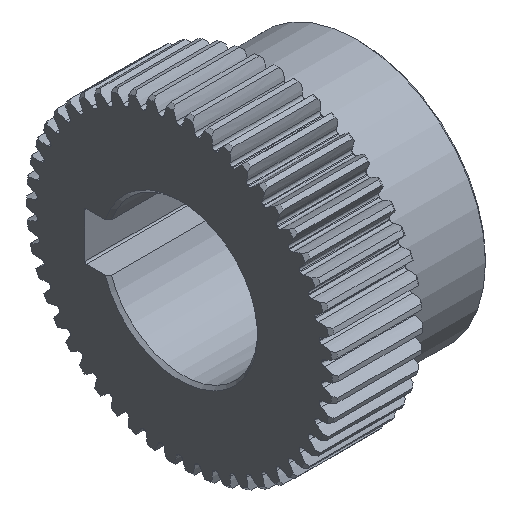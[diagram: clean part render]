
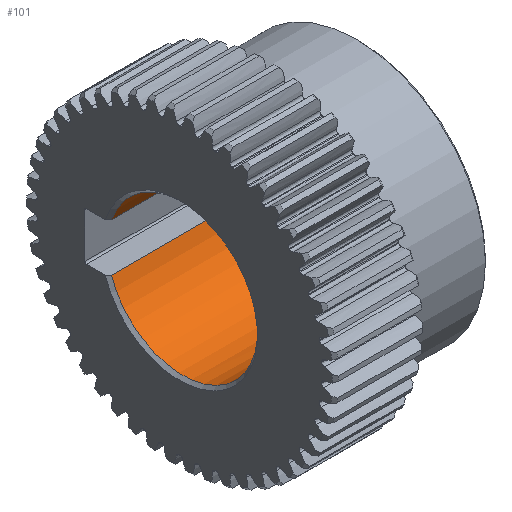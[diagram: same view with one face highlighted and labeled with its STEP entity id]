
A CAD part, isometric view. The second image highlights one B-rep face of the part: STEP entity #101.
In plain terms, the highlighted cylindrical face has radius 12.5 mm (diameter 25 mm), a partial arc.
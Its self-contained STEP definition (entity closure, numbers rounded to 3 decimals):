
#101=ADVANCED_FACE('',(#3845,#3847),#3849,.F.);
#3845=FACE_BOUND('',#3846,.T.);
#3846=EDGE_LOOP('',(#6858,#6859,#6860,#6861));
#3847=FACE_BOUND('',#3848,.T.);
#3848=EDGE_LOOP('',(#6862));
#3849=CYLINDRICAL_SURFACE('',#3850,12.5);
#3850=AXIS2_PLACEMENT_3D('',#3851,#3852,#3853);
#3851=CARTESIAN_POINT('',(0.,0.,0.));
#3852=DIRECTION('',(1.,0.,0.));
#3853=DIRECTION('',(0.,-0.,1.));
#6858=ORIENTED_EDGE('',*,*,#10918,.T.);
#6859=ORIENTED_EDGE('',*,*,#10917,.F.);
#6860=ORIENTED_EDGE('',*,*,#10919,.T.);
#6861=ORIENTED_EDGE('',*,*,#10913,.F.);
#6862=ORIENTED_EDGE('',*,*,#10920,.T.);
#10913=EDGE_CURVE('',#12458,#12460,#12461,.T.);
#10917=EDGE_CURVE('',#12465,#12463,#12467,.F.);
#10918=EDGE_CURVE('',#12458,#12463,#12468,.T.);
#10919=EDGE_CURVE('',#12465,#12460,#12469,.F.);
#10920=EDGE_CURVE('',#12470,#12470,#12471,.T.);
#12458=VERTEX_POINT('',#15606);
#12460=VERTEX_POINT('',#15613);
#12461=CIRCLE('',#15614,12.5);
#12463=VERTEX_POINT('',#15624);
#12465=VERTEX_POINT('',#15631);
#12467=CIRCLE('',#15638,12.5);
#12468=LINE('',#15642,#15643);
#12469=LINE('',#15645,#15646);
#12470=VERTEX_POINT('',#15648);
#12471=B_SPLINE_CURVE_WITH_KNOTS('',3,
(#15649,#15650,#15651,#15652,#15653,#15654,#15655,#15656,#15657,#15658,#15659,#15660,
#15661,#15662,#15663,#15664,#15665,#15666,#15667,#15668,#15669,#15670,#15671,#15672,
#15673,#15674,#15675,#15676,#15677,#15678,#15679,#15680,#15681,#15682,#15683,#15684,
#15685,#15686,#15687,#15688,#15689,#15690,#15691,#15692,#15693,#15694,#15695,#15696,
#15697,#15698,#15699,#15700,#15701,#15702,#15703,#15704,#15705,#15706,#15707,#15708,
#15709,#15710,#15711,#15712,#15713,#15714,#15715,#15716,#15717,#15718,#15719,#15720),
.UNSPECIFIED.,.T.,.F.,
(4,1,1,1,1,1,1,1,1,1,1,1,1,1,1,1,1,1,1,1,1,1,1,1,1,1,1,1,1,1,1,1,1,1,1,1,1,1,1,1,
1,1,1,1,1,1,1,1,1,1,1,1,1,1,1,1,1,1,1,1,1,1,1,1,1,1,1,1,1,4),
(0.,0.004,0.01,0.017,0.027,
0.038,0.051,0.065,0.079,0.093,
0.107,0.121,0.135,0.148,0.162,
0.177,0.192,0.206,0.22,0.234,
0.247,0.26,0.274,0.289,0.306,
0.324,0.343,0.361,0.377,0.394,
0.414,0.433,0.45,0.462,0.473,
0.486,0.499,0.512,0.526,0.543,
0.563,0.581,0.597,0.611,0.627,
0.644,0.663,0.682,0.7,0.716,
0.731,0.744,0.757,0.771,0.785,
0.802,0.82,0.839,0.857,0.873,
0.89,0.91,0.928,0.946,0.958,
0.97,0.978,0.986,0.993,1.),
.UNSPECIFIED.);
#15606=CARTESIAN_POINT('',(0.5,11.843,4.));
#15613=CARTESIAN_POINT('',(0.5,11.843,-4.));
#15614=AXIS2_PLACEMENT_3D('',#15615,#15616,#15617);
#15615=CARTESIAN_POINT('',(0.5,0.,0.));
#15616=DIRECTION('',(1.,0.,0.));
#15617=DIRECTION('',(0.,0.947,0.32));
#15624=CARTESIAN_POINT('',(29.5,11.843,4.));
#15631=CARTESIAN_POINT('',(29.5,11.843,-4.));
#15638=AXIS2_PLACEMENT_3D('',#15639,#15640,#15641);
#15639=CARTESIAN_POINT('',(29.5,0.,0.));
#15640=DIRECTION('',(1.,0.,0.));
#15641=DIRECTION('',(0.,0.947,0.32));
#15642=CARTESIAN_POINT('',(0.5,11.843,4.));
#15643=VECTOR('',#15644,1.);
#15644=DIRECTION('',(1.,0.,0.));
#15645=CARTESIAN_POINT('',(0.5,11.843,-4.));
#15646=VECTOR('',#15647,1.);
#15647=DIRECTION('',(1.,0.,0.));
#15648=CARTESIAN_POINT('',(26.229,-6.25,-10.825));
#15649=CARTESIAN_POINT('',(26.229,-6.25,-10.825));
#15650=CARTESIAN_POINT('',(26.229,-6.268,-10.815));
#15651=CARTESIAN_POINT('',(26.228,-6.309,-10.791));
#15652=CARTESIAN_POINT('',(26.225,-6.377,-10.751));
#15653=CARTESIAN_POINT('',(26.216,-6.467,-10.697));
#15654=CARTESIAN_POINT('',(26.198,-6.578,-10.63));
#15655=CARTESIAN_POINT('',(26.165,-6.711,-10.546));
#15656=CARTESIAN_POINT('',(26.116,-6.854,-10.454));
#15657=CARTESIAN_POINT('',(26.048,-7.002,-10.355));
#15658=CARTESIAN_POINT('',(25.964,-7.146,-10.256));
#15659=CARTESIAN_POINT('',(25.863,-7.285,-10.158));
#15660=CARTESIAN_POINT('',(25.747,-7.414,-10.064));
#15661=CARTESIAN_POINT('',(25.619,-7.533,-9.975));
#15662=CARTESIAN_POINT('',(25.481,-7.64,-9.894));
#15663=CARTESIAN_POINT('',(25.332,-7.736,-9.819));
#15664=CARTESIAN_POINT('',(25.171,-7.823,-9.749));
#15665=CARTESIAN_POINT('',(24.993,-7.901,-9.687));
#15666=CARTESIAN_POINT('',(24.804,-7.966,-9.633));
#15667=CARTESIAN_POINT('',(24.609,-8.017,-9.591));
#15668=CARTESIAN_POINT('',(24.415,-8.052,-9.561));
#15669=CARTESIAN_POINT('',(24.226,-8.073,-9.543));
#15670=CARTESIAN_POINT('',(24.039,-8.082,-9.536));
#15671=CARTESIAN_POINT('',(23.851,-8.078,-9.539));
#15672=CARTESIAN_POINT('',(23.657,-8.062,-9.553));
#15673=CARTESIAN_POINT('',(23.447,-8.029,-9.581));
#15674=CARTESIAN_POINT('',(23.222,-7.975,-9.626));
#15675=CARTESIAN_POINT('',(22.991,-7.896,-9.69));
#15676=CARTESIAN_POINT('',(22.771,-7.796,-9.772));
#15677=CARTESIAN_POINT('',(22.574,-7.679,-9.863));
#15678=CARTESIAN_POINT('',(22.4,-7.551,-9.962));
#15679=CARTESIAN_POINT('',(22.237,-7.401,-10.074));
#15680=CARTESIAN_POINT('',(22.09,-7.227,-10.2));
#15681=CARTESIAN_POINT('',(21.966,-7.034,-10.334));
#15682=CARTESIAN_POINT('',(21.884,-6.857,-10.452));
#15683=CARTESIAN_POINT('',(21.833,-6.704,-10.551));
#15684=CARTESIAN_POINT('',(21.799,-6.565,-10.637));
#15685=CARTESIAN_POINT('',(21.777,-6.42,-10.726));
#15686=CARTESIAN_POINT('',(21.768,-6.261,-10.819));
#15687=CARTESIAN_POINT('',(21.775,-6.098,-10.912));
#15688=CARTESIAN_POINT('',(21.8,-5.919,-11.011));
#15689=CARTESIAN_POINT('',(21.852,-5.712,-11.12));
#15690=CARTESIAN_POINT('',(21.937,-5.494,-11.229));
#15691=CARTESIAN_POINT('',(22.047,-5.29,-11.326));
#15692=CARTESIAN_POINT('',(22.164,-5.118,-11.405));
#15693=CARTESIAN_POINT('',(22.293,-4.963,-11.473));
#15694=CARTESIAN_POINT('',(22.443,-4.812,-11.537));
#15695=CARTESIAN_POINT('',(22.625,-4.663,-11.598));
#15696=CARTESIAN_POINT('',(22.838,-4.524,-11.653));
#15697=CARTESIAN_POINT('',(23.068,-4.409,-11.697));
#15698=CARTESIAN_POINT('',(23.3,-4.323,-11.729));
#15699=CARTESIAN_POINT('',(23.52,-4.266,-11.75));
#15700=CARTESIAN_POINT('',(23.722,-4.233,-11.761));
#15701=CARTESIAN_POINT('',(23.912,-4.219,-11.767));
#15702=CARTESIAN_POINT('',(24.1,-4.219,-11.766));
#15703=CARTESIAN_POINT('',(24.294,-4.235,-11.761));
#15704=CARTESIAN_POINT('',(24.503,-4.271,-11.748));
#15705=CARTESIAN_POINT('',(24.727,-4.331,-11.726));
#15706=CARTESIAN_POINT('',(24.959,-4.421,-11.692));
#15707=CARTESIAN_POINT('',(25.182,-4.536,-11.648));
#15708=CARTESIAN_POINT('',(25.383,-4.67,-11.595));
#15709=CARTESIAN_POINT('',(25.56,-4.815,-11.536));
#15710=CARTESIAN_POINT('',(25.728,-4.984,-11.464));
#15711=CARTESIAN_POINT('',(25.881,-5.176,-11.379));
#15712=CARTESIAN_POINT('',(26.009,-5.386,-11.281));
#15713=CARTESIAN_POINT('',(26.097,-5.576,-11.188));
#15714=CARTESIAN_POINT('',(26.154,-5.74,-11.105));
#15715=CARTESIAN_POINT('',(26.188,-5.87,-11.036));
#15716=CARTESIAN_POINT('',(26.209,-5.983,-10.976));
#15717=CARTESIAN_POINT('',(26.221,-6.079,-10.923));
#15718=CARTESIAN_POINT('',(26.228,-6.166,-10.873));
#15719=CARTESIAN_POINT('',(26.229,-6.222,-10.841));
#15720=CARTESIAN_POINT('',(26.229,-6.25,-10.825));
